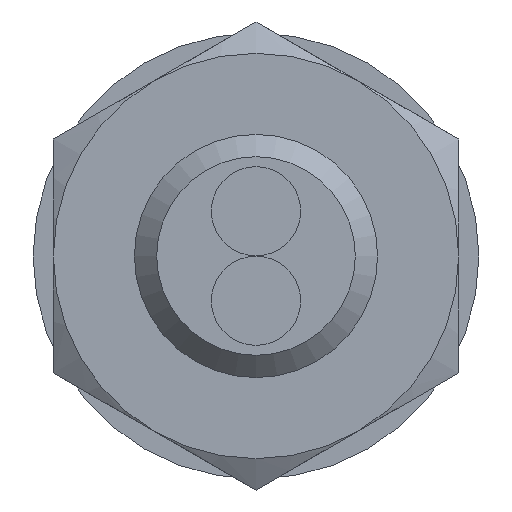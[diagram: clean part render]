
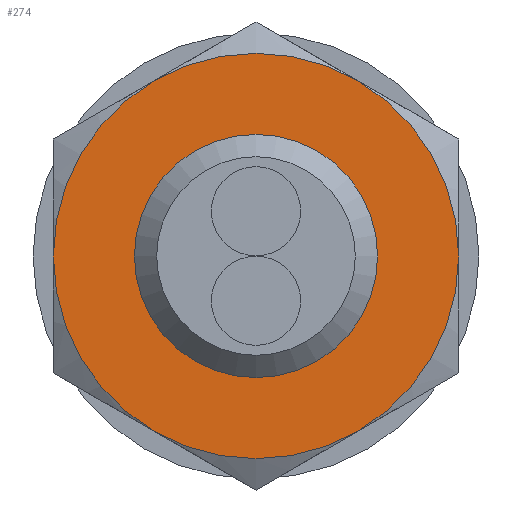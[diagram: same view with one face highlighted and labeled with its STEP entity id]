
A CAD part, left-side view. The second image highlights one B-rep face of the part: STEP entity #274.
In plain terms, the highlighted planar face has unit normal (-1, 0, 0) as drawn and (0, 0, 1) by its records, which use the part's own axes.
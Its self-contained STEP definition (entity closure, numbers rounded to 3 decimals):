
#274 = ADVANCED_FACE( '', ( #493, #494 ), #495, .T. );
#493 = FACE_BOUND( '', #672, .T. );
#494 = FACE_OUTER_BOUND( '', #673, .T. );
#495 = PLANE( '', #674 );
#672 = EDGE_LOOP( '', ( #950 ) );
#673 = EDGE_LOOP( '', ( #951, #952, #953, #954, #955, #956 ) );
#674 = AXIS2_PLACEMENT_3D( '', #957, #958, #959 );
#950 = ORIENTED_EDGE( '', *, *, #1059, .F. );
#951 = ORIENTED_EDGE( '', *, *, #1026, .T. );
#952 = ORIENTED_EDGE( '', *, *, #1039, .T. );
#953 = ORIENTED_EDGE( '', *, *, #998, .T. );
#954 = ORIENTED_EDGE( '', *, *, #1019, .T. );
#955 = ORIENTED_EDGE( '', *, *, #970, .T. );
#956 = ORIENTED_EDGE( '', *, *, #1037, .T. );
#957 = CARTESIAN_POINT( '', ( -5.501, 5.5, 2.4 ) );
#958 = DIRECTION( '', ( 0., 0., 1. ) );
#959 = DIRECTION( '', ( 0., -1., 0. ) );
#970 = EDGE_CURVE( '', #1076, #1073, #1077, .F. );
#998 = EDGE_CURVE( '', #1121, #1122, #1123, .F. );
#1019 = EDGE_CURVE( '', #1122, #1076, #1150, .F. );
#1026 = EDGE_CURVE( '', #1135, #1158, #1160, .F. );
#1037 = EDGE_CURVE( '', #1073, #1135, #1175, .F. );
#1039 = EDGE_CURVE( '', #1158, #1121, #1177, .F. );
#1059 = EDGE_CURVE( '', #1200, #1200, #1201, .T. );
#1073 = VERTEX_POINT( '', #1215 );
#1076 = VERTEX_POINT( '', #1221 );
#1077 = CIRCLE( '', #1222, 5. );
#1121 = VERTEX_POINT( '', #1280 );
#1122 = VERTEX_POINT( '', #1281 );
#1123 = CIRCLE( '', #1282, 5. );
#1135 = VERTEX_POINT( '', #1304 );
#1150 = CIRCLE( '', #1330, 5. );
#1158 = VERTEX_POINT( '', #1338 );
#1160 = CIRCLE( '', #1343, 5. );
#1175 = CIRCLE( '', #1358, 5. );
#1177 = CIRCLE( '', #1360, 5. );
#1200 = VERTEX_POINT( '', #1390 );
#1201 = CIRCLE( '', #1391, 2.594 );
#1215 = CARTESIAN_POINT( '', ( 4.33, 2.5, 2.4 ) );
#1221 = CARTESIAN_POINT( '', ( 4.33, -2.5, 2.4 ) );
#1222 = AXIS2_PLACEMENT_3D( '', #1406, #1407, #1408 );
#1280 = CARTESIAN_POINT( '', ( -4.33, -2.5, 2.4 ) );
#1281 = CARTESIAN_POINT( '', ( 0., -5., 2.4 ) );
#1282 = AXIS2_PLACEMENT_3D( '', #1444, #1445, #1446 );
#1304 = CARTESIAN_POINT( '', ( 0., 5., 2.4 ) );
#1330 = AXIS2_PLACEMENT_3D( '', #1459, #1460, #1461 );
#1338 = CARTESIAN_POINT( '', ( -4.33, 2.5, 2.4 ) );
#1343 = AXIS2_PLACEMENT_3D( '', #1468, #1469, #1470 );
#1358 = AXIS2_PLACEMENT_3D( '', #1483, #1484, #1485 );
#1360 = AXIS2_PLACEMENT_3D( '', #1486, #1487, #1488 );
#1390 = CARTESIAN_POINT( '', ( 2.594, 0., 2.4 ) );
#1391 = AXIS2_PLACEMENT_3D( '', #1499, #1500, #1501 );
#1406 = CARTESIAN_POINT( '', ( 0., 0., 2.4 ) );
#1407 = DIRECTION( '', ( 0., 0., -1. ) );
#1408 = DIRECTION( '', ( -1., 0., 0. ) );
#1444 = CARTESIAN_POINT( '', ( 0., 0., 2.4 ) );
#1445 = DIRECTION( '', ( 0., 0., -1. ) );
#1446 = DIRECTION( '', ( 0., 1., 0. ) );
#1459 = CARTESIAN_POINT( '', ( 0., 0., 2.4 ) );
#1460 = DIRECTION( '', ( 0., 0., -1. ) );
#1461 = DIRECTION( '', ( 0., 1., 0. ) );
#1468 = CARTESIAN_POINT( '', ( 0., 0., 2.4 ) );
#1469 = DIRECTION( '', ( 0., 0., -1. ) );
#1470 = DIRECTION( '', ( 0., 1., 0. ) );
#1483 = CARTESIAN_POINT( '', ( 0., 0., 2.4 ) );
#1484 = DIRECTION( '', ( 0., 0., -1. ) );
#1485 = DIRECTION( '', ( 0., 1., 0. ) );
#1486 = CARTESIAN_POINT( '', ( 0., 0., 2.4 ) );
#1487 = DIRECTION( '', ( 0., 0., -1. ) );
#1488 = DIRECTION( '', ( -1., 0., 0. ) );
#1499 = CARTESIAN_POINT( '', ( 0., 0., 2.4 ) );
#1500 = DIRECTION( '', ( 0., 0., 1. ) );
#1501 = DIRECTION( '', ( 1., 0., 0. ) );
